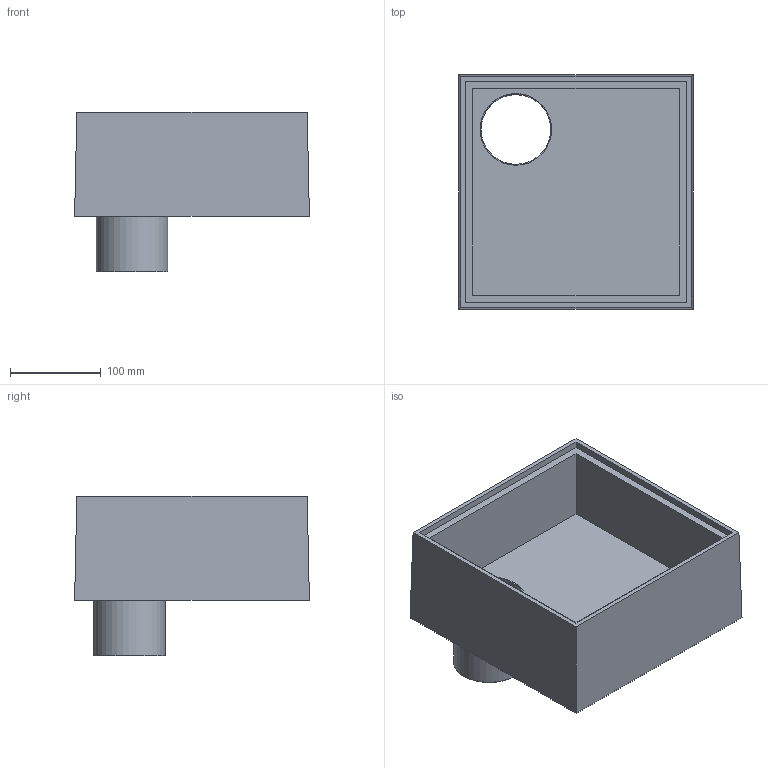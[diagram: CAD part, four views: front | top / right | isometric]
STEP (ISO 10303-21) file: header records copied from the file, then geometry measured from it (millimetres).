
FILE_DESCRIPTION (( 'STEP AP203' ), '1' );
FILE_NAME ('ELS_GAPB-08128-001.STEP', '2019-09-05T07:31:21', ( '' ), ( '' ), 'SwSTEP 2.0', 'SolidWorks 2018', '' );
FILE_SCHEMA (( 'CONFIG_CONTROL_DESIGN' ));
Length unit declared in the file: millimetre
Products named in the file (1): ELS_GAPB-08128-001
Bounding box: 259 x 259 x 176 mm (x, y, z)
Volume: 2780533.8 mm3; surface area: 371187.7 mm2
Topology: 2 solids, 2 shells, 21 faces, 48 edges, 33 vertices
Faces by surface type: plane 18, cylinder 3
Full cylindrical faces by diameter (mm): 77 x1, 79 x2
Entity records: 633 total; most frequent: CARTESIAN_POINT 94, DIRECTION 92, ORIENTED_EDGE 84, EDGE_CURVE 42, VECTOR 36, LINE 36, VERTEX_POINT 30, EDGE_LOOP 30
